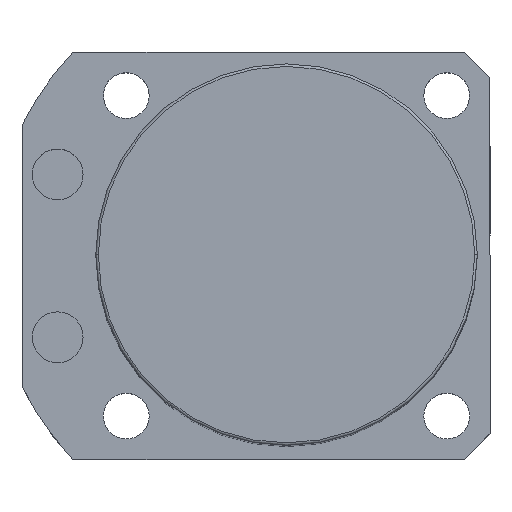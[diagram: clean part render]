
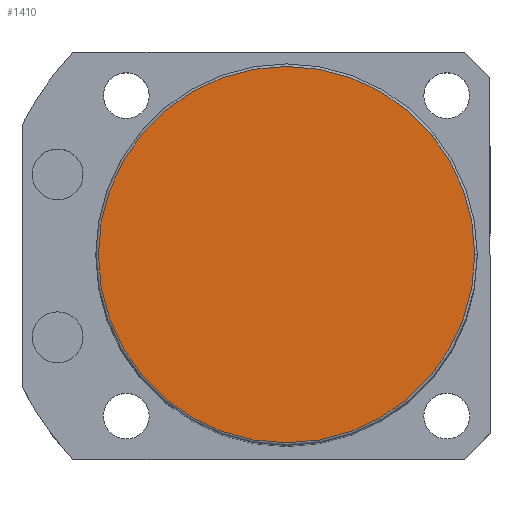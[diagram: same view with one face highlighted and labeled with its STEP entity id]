
A CAD part, top view. The second image highlights one B-rep face of the part: STEP entity #1410.
In plain terms, the highlighted planar face has unit normal (0, 0, 1).
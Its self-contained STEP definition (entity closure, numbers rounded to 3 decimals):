
#152 = CIRCLE ( 'NONE', #2123, 37. ) ;
#214 = DIRECTION ( 'NONE',  ( 1., 0., 0. ) ) ;
#338 = PLANE ( 'NONE',  #2260 ) ;
#541 = CIRCLE ( 'NONE', #2716, 37. ) ;
#634 = CARTESIAN_POINT ( 'NONE',  ( 0., 0., 155.5 ) ) ;
#643 = CARTESIAN_POINT ( 'NONE',  ( 0., 0., 155.5 ) ) ;
#807 = EDGE_CURVE ( 'NONE', #1583, #1665, #541, .T. ) ;
#871 = CARTESIAN_POINT ( 'NONE',  ( 37., 0., 155.5 ) ) ;
#1111 = DIRECTION ( 'NONE',  ( 0., 0., 1. ) ) ;
#1144 = CARTESIAN_POINT ( 'NONE',  ( -37., 0., 155.5 ) ) ;
#1153 = ORIENTED_EDGE ( 'NONE', *, *, #807, .T. ) ;
#1308 = DIRECTION ( 'NONE',  ( 0., 0., 1. ) ) ;
#1410 = ADVANCED_FACE ( 'NONE', ( #2458 ), #338, .T. ) ;
#1475 = EDGE_CURVE ( 'NONE', #1665, #1583, #152, .T. ) ;
#1515 = DIRECTION ( 'NONE',  ( 1., 0., 0. ) ) ;
#1555 = DIRECTION ( 'NONE',  ( 1., 0., 0. ) ) ;
#1583 = VERTEX_POINT ( 'NONE', #871 ) ;
#1665 = VERTEX_POINT ( 'NONE', #1144 ) ;
#1755 = DIRECTION ( 'NONE',  ( 0., 0., 1. ) ) ;
#2041 = ORIENTED_EDGE ( 'NONE', *, *, #1475, .T. ) ;
#2123 = AXIS2_PLACEMENT_3D ( 'NONE', #634, #1755, #214 ) ;
#2169 = CARTESIAN_POINT ( 'NONE',  ( 0., 0., 155.5 ) ) ;
#2260 = AXIS2_PLACEMENT_3D ( 'NONE', #2169, #1111, #1555 ) ;
#2458 = FACE_OUTER_BOUND ( 'NONE', #2732, .T. ) ;
#2716 = AXIS2_PLACEMENT_3D ( 'NONE', #643, #1308, #1515 ) ;
#2732 = EDGE_LOOP ( 'NONE', ( #1153, #2041 ) ) ;
